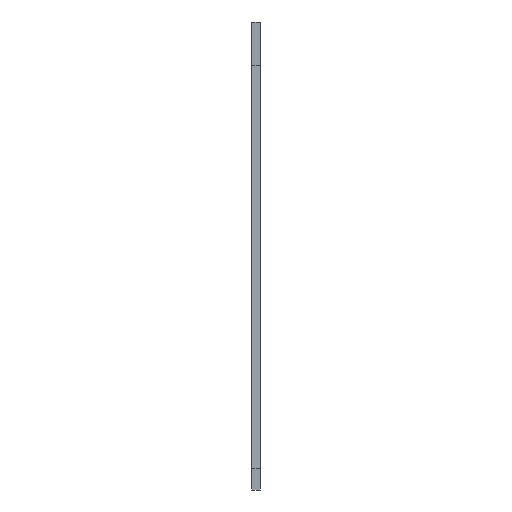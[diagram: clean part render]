
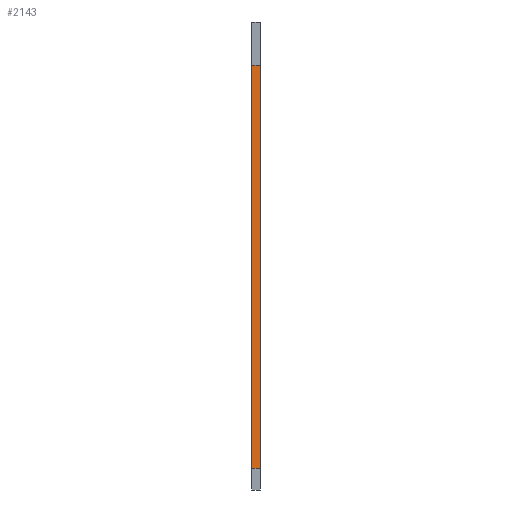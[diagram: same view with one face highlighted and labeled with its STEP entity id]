
A CAD part, front view. The second image highlights one B-rep face of the part: STEP entity #2143.
In plain terms, the highlighted planar face has unit normal (0, -1, 0.031).
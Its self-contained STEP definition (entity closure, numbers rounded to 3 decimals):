
#33 = PLANE('',#34);
#34 = AXIS2_PLACEMENT_3D('',#35,#36,#37);
#35 = CARTESIAN_POINT('',(143.5,39.,-22.));
#36 = DIRECTION('',(-1.,-0.,-0.));
#37 = DIRECTION('',(0.,0.,-1.));
#515 = VERTEX_POINT('',#516);
#516 = CARTESIAN_POINT('',(143.5,-85.877,-157.));
#530 = PLANE('',#531);
#531 = AXIS2_PLACEMENT_3D('',#532,#533,#534);
#532 = CARTESIAN_POINT('',(143.5,-89.,-157.));
#533 = DIRECTION('',(0.,0.,1.));
#534 = DIRECTION('',(1.,0.,0.));
#542 = EDGE_CURVE('',#543,#515,#545,.T.);
#543 = VERTEX_POINT('',#544);
#544 = CARTESIAN_POINT('',(143.5,-81.25,-8.));
#545 = SURFACE_CURVE('',#546,(#550,#557),.PCURVE_S1.);
#546 = LINE('',#547,#548);
#547 = CARTESIAN_POINT('',(143.5,-80.999,0.093));
#548 = VECTOR('',#549,1.);
#549 = DIRECTION('',(-0.,-0.031,-1.));
#550 = PCURVE('',#33,#551);
#551 = DEFINITIONAL_REPRESENTATION('',(#552),#556);
#552 = LINE('',#553,#554);
#553 = CARTESIAN_POINT('',(-22.093,119.999));
#554 = VECTOR('',#555,1.);
#555 = DIRECTION('',(1.,0.031));
#556 = ( GEOMETRIC_REPRESENTATION_CONTEXT(2) 
PARAMETRIC_REPRESENTATION_CONTEXT() REPRESENTATION_CONTEXT('2D SPACE',''
  ) );
#557 = PCURVE('',#558,#563);
#558 = PLANE('',#559);
#559 = AXIS2_PLACEMENT_3D('',#560,#561,#562);
#560 = CARTESIAN_POINT('',(143.5,-80.999,0.093));
#561 = DIRECTION('',(-0.,-1.,0.031));
#562 = DIRECTION('',(0.,0.031,1.));
#563 = DEFINITIONAL_REPRESENTATION('',(#564),#568);
#564 = LINE('',#565,#566);
#565 = CARTESIAN_POINT('',(-0.,-0.));
#566 = VECTOR('',#567,1.);
#567 = DIRECTION('',(-1.,0.));
#568 = ( GEOMETRIC_REPRESENTATION_CONTEXT(2) 
PARAMETRIC_REPRESENTATION_CONTEXT() REPRESENTATION_CONTEXT('2D SPACE',''
  ) );
#586 = PLANE('',#587);
#587 = AXIS2_PLACEMENT_3D('',#588,#589,#590);
#588 = CARTESIAN_POINT('',(143.5,-91.,-8.));
#589 = DIRECTION('',(0.,0.,1.));
#590 = DIRECTION('',(1.,0.,0.));
#1584 = PLANE('',#1585);
#1585 = AXIS2_PLACEMENT_3D('',#1586,#1587,#1588);
#1586 = CARTESIAN_POINT('',(146.5,65.,-8.));
#1587 = DIRECTION('',(1.,0.,0.));
#1588 = DIRECTION('',(0.,0.,1.));
#2056 = VERTEX_POINT('',#2057);
#2057 = CARTESIAN_POINT('',(146.5,-81.25,-8.));
#2078 = EDGE_CURVE('',#543,#2056,#2079,.T.);
#2079 = SURFACE_CURVE('',#2080,(#2084,#2090),.PCURVE_S1.);
#2080 = LINE('',#2081,#2082);
#2081 = CARTESIAN_POINT('',(143.5,-81.25,-8.));
#2082 = VECTOR('',#2083,1.);
#2083 = DIRECTION('',(1.,-0.,0.));
#2084 = PCURVE('',#586,#2085);
#2085 = DEFINITIONAL_REPRESENTATION('',(#2086),#2089);
#2086 = B_SPLINE_CURVE_WITH_KNOTS('',1,(#2087,#2088),.UNSPECIFIED.,.F.,
  .F.,(2,2),(0.,3.),.PIECEWISE_BEZIER_KNOTS.);
#2087 = CARTESIAN_POINT('',(0.,9.75));
#2088 = CARTESIAN_POINT('',(3.,9.75));
#2089 = ( GEOMETRIC_REPRESENTATION_CONTEXT(2) 
PARAMETRIC_REPRESENTATION_CONTEXT() REPRESENTATION_CONTEXT('2D SPACE',''
  ) );
#2090 = PCURVE('',#558,#2091);
#2091 = DEFINITIONAL_REPRESENTATION('',(#2092),#2095);
#2092 = B_SPLINE_CURVE_WITH_KNOTS('',1,(#2093,#2094),.UNSPECIFIED.,.F.,
  .F.,(2,2),(0.,3.),.PIECEWISE_BEZIER_KNOTS.);
#2093 = CARTESIAN_POINT('',(-8.097,0.));
#2094 = CARTESIAN_POINT('',(-8.097,-3.));
#2095 = ( GEOMETRIC_REPRESENTATION_CONTEXT(2) 
PARAMETRIC_REPRESENTATION_CONTEXT() REPRESENTATION_CONTEXT('2D SPACE',''
  ) );
#2143 = ADVANCED_FACE('',(#2144),#558,.T.);
#2144 = FACE_BOUND('',#2145,.F.);
#2145 = EDGE_LOOP('',(#2146,#2147,#2148,#2171));
#2146 = ORIENTED_EDGE('',*,*,#542,.F.);
#2147 = ORIENTED_EDGE('',*,*,#2078,.T.);
#2148 = ORIENTED_EDGE('',*,*,#2149,.T.);
#2149 = EDGE_CURVE('',#2056,#2150,#2152,.T.);
#2150 = VERTEX_POINT('',#2151);
#2151 = CARTESIAN_POINT('',(146.5,-85.877,-157.));
#2152 = SURFACE_CURVE('',#2153,(#2157,#2164),.PCURVE_S1.);
#2153 = LINE('',#2154,#2155);
#2154 = CARTESIAN_POINT('',(146.5,-80.999,0.093));
#2155 = VECTOR('',#2156,1.);
#2156 = DIRECTION('',(-0.,-0.031,-1.));
#2157 = PCURVE('',#558,#2158);
#2158 = DEFINITIONAL_REPRESENTATION('',(#2159),#2163);
#2159 = LINE('',#2160,#2161);
#2160 = CARTESIAN_POINT('',(-0.,-3.));
#2161 = VECTOR('',#2162,1.);
#2162 = DIRECTION('',(-1.,0.));
#2163 = ( GEOMETRIC_REPRESENTATION_CONTEXT(2) 
PARAMETRIC_REPRESENTATION_CONTEXT() REPRESENTATION_CONTEXT('2D SPACE',''
  ) );
#2164 = PCURVE('',#1584,#2165);
#2165 = DEFINITIONAL_REPRESENTATION('',(#2166),#2170);
#2166 = LINE('',#2167,#2168);
#2167 = CARTESIAN_POINT('',(8.093,145.999));
#2168 = VECTOR('',#2169,1.);
#2169 = DIRECTION('',(-1.,0.031));
#2170 = ( GEOMETRIC_REPRESENTATION_CONTEXT(2) 
PARAMETRIC_REPRESENTATION_CONTEXT() REPRESENTATION_CONTEXT('2D SPACE',''
  ) );
#2171 = ORIENTED_EDGE('',*,*,#2172,.F.);
#2172 = EDGE_CURVE('',#515,#2150,#2173,.T.);
#2173 = SURFACE_CURVE('',#2174,(#2178,#2184),.PCURVE_S1.);
#2174 = LINE('',#2175,#2176);
#2175 = CARTESIAN_POINT('',(143.5,-85.877,-157.));
#2176 = VECTOR('',#2177,1.);
#2177 = DIRECTION('',(1.,-0.,0.));
#2178 = PCURVE('',#558,#2179);
#2179 = DEFINITIONAL_REPRESENTATION('',(#2180),#2183);
#2180 = B_SPLINE_CURVE_WITH_KNOTS('',1,(#2181,#2182),.UNSPECIFIED.,.F.,
  .F.,(2,2),(0.,3.),.PIECEWISE_BEZIER_KNOTS.);
#2181 = CARTESIAN_POINT('',(-157.169,0.));
#2182 = CARTESIAN_POINT('',(-157.169,-3.));
#2183 = ( GEOMETRIC_REPRESENTATION_CONTEXT(2) 
PARAMETRIC_REPRESENTATION_CONTEXT() REPRESENTATION_CONTEXT('2D SPACE',''
  ) );
#2184 = PCURVE('',#530,#2185);
#2185 = DEFINITIONAL_REPRESENTATION('',(#2186),#2189);
#2186 = B_SPLINE_CURVE_WITH_KNOTS('',1,(#2187,#2188),.UNSPECIFIED.,.F.,
  .F.,(2,2),(0.,3.),.PIECEWISE_BEZIER_KNOTS.);
#2187 = CARTESIAN_POINT('',(0.,3.123));
#2188 = CARTESIAN_POINT('',(3.,3.123));
#2189 = ( GEOMETRIC_REPRESENTATION_CONTEXT(2) 
PARAMETRIC_REPRESENTATION_CONTEXT() REPRESENTATION_CONTEXT('2D SPACE',''
  ) );
